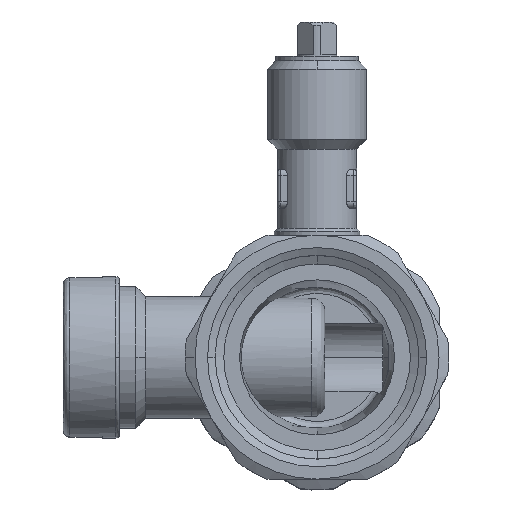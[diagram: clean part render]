
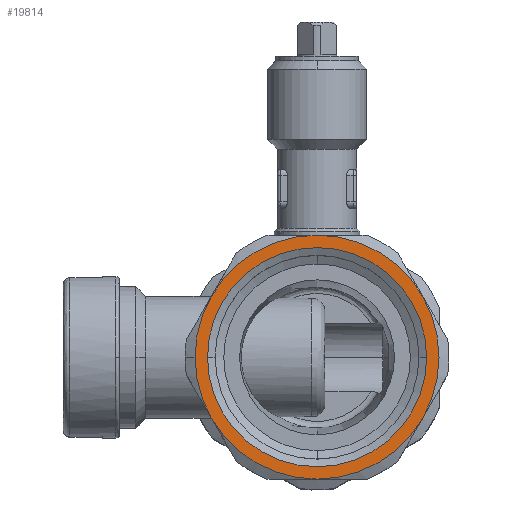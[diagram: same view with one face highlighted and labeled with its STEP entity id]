
A CAD part, top view. The second image highlights one B-rep face of the part: STEP entity #19814.
In plain terms, the highlighted planar face has unit normal (0, 0, 1).
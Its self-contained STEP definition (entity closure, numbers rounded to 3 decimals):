
#30 = ORIENTED_EDGE ( 'NONE', *, *, #10050, .T. ) ;
#746 = CARTESIAN_POINT ( 'NONE',  ( 462.996, 0., 251.431 ) ) ;
#795 = EDGE_CURVE ( 'NONE', #38600, #29352, #27181, .T. ) ;
#916 = EDGE_CURVE ( 'NONE', #26582, #38600, #32385, .T. ) ;
#1377 = EDGE_CURVE ( 'NONE', #22233, #36828, #20251, .T. ) ;
#2133 = AXIS2_PLACEMENT_3D ( 'NONE', #21404, #36905, #2704 ) ;
#2627 = ORIENTED_EDGE ( 'NONE', *, *, #14712, .F. ) ;
#2704 = DIRECTION ( 'NONE',  ( -1., 0., 0. ) ) ;
#3134 = EDGE_LOOP ( 'NONE', ( #28841, #25307, #31140, #17821, #33780, #2627, #36540 ) ) ;
#4057 = AXIS2_PLACEMENT_3D ( 'NONE', #20261, #20647, #38571 ) ;
#5929 = DIRECTION ( 'NONE',  ( -1., 0., 0. ) ) ;
#6194 = EDGE_CURVE ( 'NONE', #29352, #26355, #26339, .T. ) ;
#7071 = CIRCLE ( 'NONE', #15471, 18.5 ) ;
#7540 = CARTESIAN_POINT ( 'NONE',  ( 429.756, 0., 251.431 ) ) ;
#8176 = DIRECTION ( 'NONE',  ( 0., 0., -1. ) ) ;
#8254 = CARTESIAN_POINT ( 'NONE',  ( 446.376, 18.5, 251.431 ) ) ;
#8272 = EDGE_CURVE ( 'NONE', #34860, #20356, #36432, .T. ) ;
#9146 = FACE_BOUND ( 'NONE', #18653, .T. ) ;
#9903 = DIRECTION ( 'NONE',  ( -1., 0., 0. ) ) ;
#10050 = EDGE_CURVE ( 'NONE', #36828, #22233, #30712, .T. ) ;
#11250 = AXIS2_PLACEMENT_3D ( 'NONE', #27619, #17794, #36671 ) ;
#11319 = CARTESIAN_POINT ( 'NONE',  ( 462.397, 9.25, 251.431 ) ) ;
#12887 = CARTESIAN_POINT ( 'NONE',  ( 430.354, 9.25, 251.431 ) ) ;
#14363 = DIRECTION ( 'NONE',  ( 0., 0., -1. ) ) ;
#14712 = EDGE_CURVE ( 'NONE', #26355, #25497, #38962, .T. ) ;
#15076 = DIRECTION ( 'NONE',  ( 1., 0., 0. ) ) ;
#15471 = AXIS2_PLACEMENT_3D ( 'NONE', #19337, #31631, #9903 ) ;
#16388 = AXIS2_PLACEMENT_3D ( 'NONE', #24059, #30323, #15076 ) ;
#17475 = EDGE_CURVE ( 'NONE', #20356, #26582, #7071, .T. ) ;
#17794 = DIRECTION ( 'NONE',  ( 0., 0., 1. ) ) ;
#17821 = ORIENTED_EDGE ( 'NONE', *, *, #8272, .F. ) ;
#18438 = DIRECTION ( 'NONE',  ( -1., 0., 0. ) ) ;
#18588 = PLANE ( 'NONE',  #11250 ) ;
#18653 = EDGE_LOOP ( 'NONE', ( #38961, #30 ) ) ;
#19337 = CARTESIAN_POINT ( 'NONE',  ( 446.376, 0., 251.431 ) ) ;
#19739 = CARTESIAN_POINT ( 'NONE',  ( 462.397, -9.25, 251.431 ) ) ;
#19814 = ADVANCED_FACE ( 'NONE', ( #9146, #23997 ), #18588, .T. ) ;
#19817 = DIRECTION ( 'NONE',  ( 0., 0., -1. ) ) ;
#20204 = DIRECTION ( 'NONE',  ( -1., 0., 0. ) ) ;
#20251 = CIRCLE ( 'NONE', #16388, 16.62 ) ;
#20261 = CARTESIAN_POINT ( 'NONE',  ( 446.376, 0., 251.431 ) ) ;
#20356 = VERTEX_POINT ( 'NONE', #12887 ) ;
#20647 = DIRECTION ( 'NONE',  ( 0., 0., -1. ) ) ;
#20746 = CARTESIAN_POINT ( 'NONE',  ( 446.376, 0., 251.431 ) ) ;
#21404 = CARTESIAN_POINT ( 'NONE',  ( 446.376, 0., 251.431 ) ) ;
#22116 = AXIS2_PLACEMENT_3D ( 'NONE', #36728, #37481, #18438 ) ;
#22233 = VERTEX_POINT ( 'NONE', #746 ) ;
#22869 = CARTESIAN_POINT ( 'NONE',  ( 427.876, 0., 251.431 ) ) ;
#23597 = DIRECTION ( 'NONE',  ( -1., 0., 0. ) ) ;
#23632 = AXIS2_PLACEMENT_3D ( 'NONE', #20746, #14363, #38682 ) ;
#23997 = FACE_OUTER_BOUND ( 'NONE', #3134, .T. ) ;
#24059 = CARTESIAN_POINT ( 'NONE',  ( 446.376, 0., 251.431 ) ) ;
#24950 = CIRCLE ( 'NONE', #35273, 18.5 ) ;
#25307 = ORIENTED_EDGE ( 'NONE', *, *, #916, .F. ) ;
#25497 = VERTEX_POINT ( 'NONE', #39028 ) ;
#26339 = CIRCLE ( 'NONE', #22116, 18.5 ) ;
#26355 = VERTEX_POINT ( 'NONE', #35460 ) ;
#26582 = VERTEX_POINT ( 'NONE', #8254 ) ;
#27181 = CIRCLE ( 'NONE', #4057, 18.5 ) ;
#27619 = CARTESIAN_POINT ( 'NONE',  ( 462.397, 9.25, 251.431 ) ) ;
#28841 = ORIENTED_EDGE ( 'NONE', *, *, #795, .F. ) ;
#29352 = VERTEX_POINT ( 'NONE', #19739 ) ;
#30323 = DIRECTION ( 'NONE',  ( 0., 0., -1. ) ) ;
#30702 = EDGE_CURVE ( 'NONE', #25497, #34860, #24950, .T. ) ;
#30712 = CIRCLE ( 'NONE', #23632, 16.62 ) ;
#31140 = ORIENTED_EDGE ( 'NONE', *, *, #17475, .F. ) ;
#31631 = DIRECTION ( 'NONE',  ( 0., 0., -1. ) ) ;
#32385 = CIRCLE ( 'NONE', #2133, 18.5 ) ;
#33780 = ORIENTED_EDGE ( 'NONE', *, *, #30702, .F. ) ;
#34471 = AXIS2_PLACEMENT_3D ( 'NONE', #35886, #38719, #23597 ) ;
#34860 = VERTEX_POINT ( 'NONE', #22869 ) ;
#35273 = AXIS2_PLACEMENT_3D ( 'NONE', #38109, #19817, #20204 ) ;
#35460 = CARTESIAN_POINT ( 'NONE',  ( 446.376, -18.5, 251.431 ) ) ;
#35732 = CARTESIAN_POINT ( 'NONE',  ( 446.376, 0., 251.431 ) ) ;
#35886 = CARTESIAN_POINT ( 'NONE',  ( 446.376, 0., 251.431 ) ) ;
#36432 = CIRCLE ( 'NONE', #39690, 18.5 ) ;
#36540 = ORIENTED_EDGE ( 'NONE', *, *, #6194, .F. ) ;
#36671 = DIRECTION ( 'NONE',  ( 1., 0., 0. ) ) ;
#36728 = CARTESIAN_POINT ( 'NONE',  ( 446.376, 0., 251.431 ) ) ;
#36828 = VERTEX_POINT ( 'NONE', #7540 ) ;
#36905 = DIRECTION ( 'NONE',  ( 0., 0., -1. ) ) ;
#37481 = DIRECTION ( 'NONE',  ( 0., 0., -1. ) ) ;
#38109 = CARTESIAN_POINT ( 'NONE',  ( 446.376, 0., 251.431 ) ) ;
#38571 = DIRECTION ( 'NONE',  ( 0., 1., 0. ) ) ;
#38600 = VERTEX_POINT ( 'NONE', #11319 ) ;
#38682 = DIRECTION ( 'NONE',  ( 1., 0., 0. ) ) ;
#38719 = DIRECTION ( 'NONE',  ( 0., 0., -1. ) ) ;
#38961 = ORIENTED_EDGE ( 'NONE', *, *, #1377, .T. ) ;
#38962 = CIRCLE ( 'NONE', #34471, 18.5 ) ;
#39028 = CARTESIAN_POINT ( 'NONE',  ( 430.354, -9.25, 251.431 ) ) ;
#39690 = AXIS2_PLACEMENT_3D ( 'NONE', #35732, #8176, #5929 ) ;
